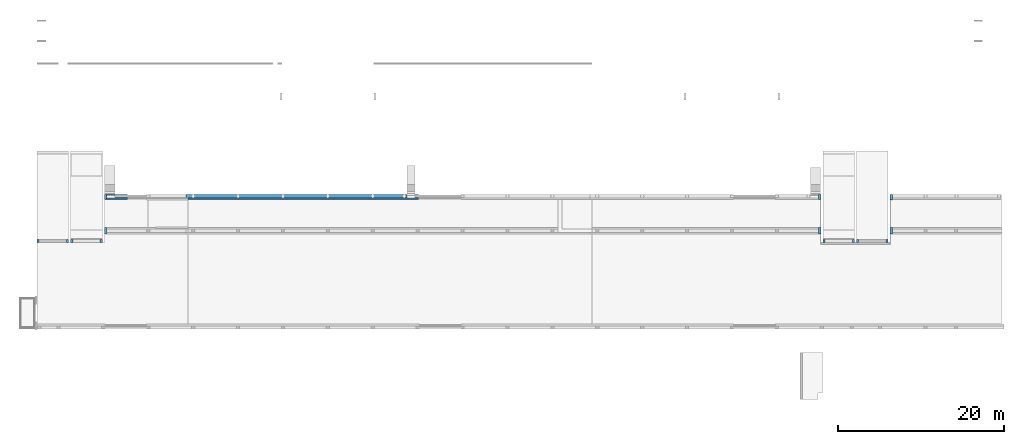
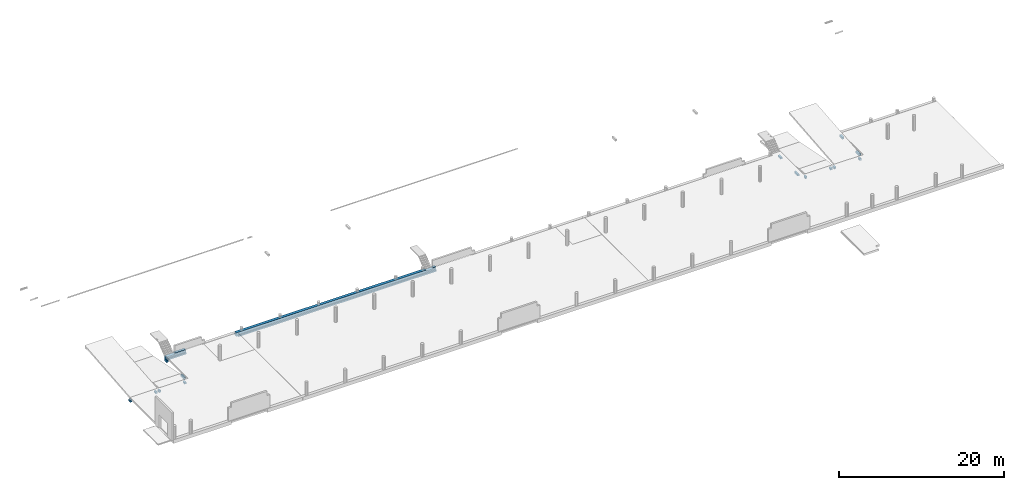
# One storey, part 5 of 6: 14 walls, 2 beams.
"""IFC2X3 building model written with IfcOpenShell, lengths in millimetres."""

from ifc_helpers import new_model, entity, si_unit, converted_unit, derived_unit, direction, frame, origin, place, context, subcontext, project, spatial, faceted_brep, material, type_object, element, save


model = new_model("IFC2X3")

# Units and contexts
model_context = context("Model", 3, precision=0.01, world=origin(), true_north=direction((6.12303176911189e-17, 1.0)))
body_context = subcontext(model_context, "Body", "Model", "MODEL_VIEW")
ifc_project = project(units=[si_unit("LENGTHUNIT", "METRE", prefix="MILLI"), si_unit("AREAUNIT", "SQUARE_METRE"), si_unit("VOLUMEUNIT", "CUBIC_METRE"), converted_unit("PLANEANGLEUNIT", "DEGREE", entity("IfcRatioMeasure", 0.0174532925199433), si_unit("PLANEANGLEUNIT", "RADIAN"), dimensions=[0, 0, 0, 0, 0, 0, 0]), si_unit("MASSUNIT", "GRAM", prefix="KILO"), derived_unit("MASSDENSITYUNIT", [(si_unit("MASSUNIT", "GRAM", prefix="KILO"), 1), (si_unit("LENGTHUNIT", "METRE"), -3)]), si_unit("TIMEUNIT", "SECOND"), si_unit("FREQUENCYUNIT", "HERTZ"), si_unit("THERMODYNAMICTEMPERATUREUNIT", "DEGREE_CELSIUS"), derived_unit("THERMALTRANSMITTANCEUNIT", [(si_unit("MASSUNIT", "GRAM", prefix="KILO"), 1), (si_unit("THERMODYNAMICTEMPERATUREUNIT", "KELVIN"), -1), (si_unit("TIMEUNIT", "SECOND"), -3)]), derived_unit("VOLUMETRICFLOWRATEUNIT", [(si_unit("LENGTHUNIT", "METRE"), 3), (si_unit("TIMEUNIT", "SECOND"), -1)]), si_unit("ELECTRICCURRENTUNIT", "AMPERE"), si_unit("ELECTRICVOLTAGEUNIT", "VOLT"), si_unit("POWERUNIT", "WATT"), si_unit("FORCEUNIT", "NEWTON", prefix="KILO"), si_unit("ILLUMINANCEUNIT", "LUX"), si_unit("LUMINOUSFLUXUNIT", "LUMEN"), si_unit("LUMINOUSINTENSITYUNIT", "CANDELA"), derived_unit("USERDEFINED", [(si_unit("MASSUNIT", "GRAM", prefix="KILO"), -1), (si_unit("LENGTHUNIT", "METRE"), -2), (si_unit("TIMEUNIT", "SECOND"), 3), (si_unit("LUMINOUSFLUXUNIT", "LUMEN"), 1)]), derived_unit("LINEARVELOCITYUNIT", [(si_unit("LENGTHUNIT", "METRE"), 1), (si_unit("TIMEUNIT", "SECOND"), -1)]), si_unit("PRESSUREUNIT", "PASCAL"), derived_unit("USERDEFINED", [(si_unit("LENGTHUNIT", "METRE"), -2), (si_unit("MASSUNIT", "GRAM", prefix="KILO"), 1), (si_unit("TIMEUNIT", "SECOND"), -2)])], contexts=[model_context])

# Site, building, storey
site_placement = place(None, origin())
site = spatial("IfcSite", under=ifc_project, at=site_placement, Name="Default", CompositionType="ELEMENT")
building_placement = place(site_placement, origin())
building = spatial("IfcBuilding", under=site, at=building_placement, Name="niet gebruiken", CompositionType="ELEMENT")
storey_placement = place(building_placement, frame((0.0, 0.0, 8370.0)))
storey = spatial("IfcBuildingStorey", under=building, at=storey_placement, Name="02a eerste tussenverdieping", CompositionType="ELEMENT", Elevation=8369.99999999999)

# Beams
ifc_material = material(Name="NLRS_f2_beton prefab")
beam_type = type_object("IfcBeamType", Name="NLRS_28.11_SF_WPB_prefabbeton balk enkele sponning_gen:600x540/200x200", PredefinedType="BEAM")
beam_1_placement = place(storey_placement, frame((26150.0, 24576.0, -530.0)))
element("IfcBeam", 1, at=beam_1_placement, inside=storey, type_object=beam_type, material=ifc_material, Name="NLRS_28.11_SF_WPB_prefabbeton balk enkele sponning_gen:600x540/200x200", ObjectType="NLRS_28.11_SF_WPB_prefabbeton balk enkele sponning_gen:600x540/200x200", context=body_context, shape_type="Brep", body=[
    faceted_brep([(0.0, 200.0, 540.0), (0.0, 600.0, 540.0), (0.0, 600.0, 0.0), (0.0, 200.0, 0.0), (0.0, 200.0, 460.0), (0.0, 200.0, 530.0), (27950.0, 200.0, 200.0), (27950.0, 0.0, 200.0), (27950.0, 0.0, 0.0), (27950.0, 600.0, 0.0), (27950.0, 600.0, 540.0), (27950.0, 200.0, 540.0), (27950.0, 200.0, 530.0), (27950.0, 275.0, 530.0), (27950.0, 275.0, 460.0), (27950.0, 200.0, 460.0), (26550.0, 200.0, 540.0), (26550.0, 600.0, 540.0), (27540.0, 200.0, 460.0), (27540.0, 200.0, 390.0), (26550.0, 200.0, 390.0), (26550.0, 200.0, 460.0), (26550.0, 200.0, 530.0), (220.0, 200.0, 0.0), (220.0, 200.0, 200.0), (220.0, 0.0, 200.0), (220.0, 0.0, 0.0), (26550.0, 600.0, 390.0), (27540.0, 600.0, 390.0), (27540.0, 600.0, 540.0), (27540.0, 275.0, 460.0), (27540.0, 200.0, 540.0), (27540.0, 275.0, 530.0), (27540.0, 200.0, 530.0)], [[[0, 1, 2, 3, 4, 5]], [[6, 7, 8, 9, 10, 11, 12, 13, 14, 15]], [[1, 0, 16, 17]], [[6, 15, 18, 19, 20, 21, 22, 16, 0, 5, 4, 3, 23, 24]], [[7, 6, 24, 25]], [[8, 7, 25, 26]], [[9, 8, 26, 23, 3, 2]], [[2, 1, 17, 27, 28, 29, 10, 9]], [[14, 30, 18, 15]], [[31, 29, 28, 19, 18, 30, 32, 33]], [[17, 16, 22, 21, 20, 27]], [[30, 14, 13, 32]], [[32, 13, 12, 33]], [[11, 10, 29, 31]], [[12, 11, 31, 33]], [[24, 23, 26, 25]], [[27, 20, 19, 28]]]),
])
beam_2_placement = place(storey_placement, frame((16345.0, 24576.0, -530.0)))
element("IfcBeam", 2, at=beam_2_placement, inside=storey, type_object=beam_type, material=ifc_material, Name="NLRS_28.11_SF_WPB_prefabbeton balk enkele sponning_gen:600x540/200x200", ObjectType="NLRS_28.11_SF_WPB_prefabbeton balk enkele sponning_gen:600x540/200x200", context=body_context, shape_type="Brep", body=[
    faceted_brep([(0.0, 0.0, 200.0), (0.0, 200.0, 200.0), (0.0, 200.0, 390.0), (0.0, 600.0, 390.0), (0.0, 600.0, 0.0), (0.0, 0.0, 0.0), (2755.0, 0.0, 0.0), (2755.0, 0.0, 200.0), (2755.0, 600.0, 540.0), (2755.0, 200.0, 540.0), (2755.0, 200.0, 530.0), (2755.0, 275.0, 530.0), (2755.0, 275.0, 460.0), (2755.0, 200.0, 460.0), (2755.0, 200.0, 200.0), (2755.0, 600.0, 0.0), (1250.0, 600.0, 540.0), (1250.0, 200.0, 540.0), (1250.0, 200.0, 530.0), (1250.0, 600.0, 390.0), (1250.0, 275.0, 460.0), (1250.0, 200.0, 460.0), (1250.0, 275.0, 530.0), (1250.0, 200.0, 390.0)], [[[0, 1, 2, 3, 4, 5]], [[0, 5, 6, 7]], [[8, 9, 10, 11, 12, 13, 14, 7, 6, 15]], [[9, 8, 16, 17]], [[9, 17, 18, 10]], [[1, 0, 7, 14]], [[5, 4, 15, 6]], [[8, 15, 4, 3, 19, 16]], [[12, 20, 21, 13]], [[20, 12, 11, 22]], [[22, 11, 10, 18]], [[1, 14, 13, 21, 23, 2]], [[17, 16, 19, 23, 21, 20, 22, 18]], [[23, 19, 3, 2]]]),
])

# Walls
wall_type_1 = type_object("IfcWallType", Name="NLRS_21.21_SF_WPB_oplegnok prefabbeton_gen:250x310", PredefinedType="NOTDEFINED", material=ifc_material)
wall_1_placement = place(storey_placement, frame((16325.0, 20446.0, -850.0), z_axis=(0.0, 0.0, 1.0), x_axis=(0.0, 1.0, 0.0)))
element("IfcWall", 3, at=wall_1_placement, inside=storey, type_object=wall_type_1, material=ifc_material, Name="NLRS_21.21_SF_WPB_oplegnok prefabbeton_gen:250x310", ObjectType="NLRS_21.21_SF_WPB_oplegnok prefabbeton_gen:250x310", context=body_context, shape_type="Brep", body=[
    faceted_brep([(0.0, 0.0, 310.0), (0.0, 0.0, 0.0), (0.0, -250.0, 39.9987607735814), (0.0, -250.0, 310.0), (800.0, 0.0, 310.0), (800.0, -250.0, 310.0), (800.0, -250.0, 39.9987607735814), (800.0, 0.0, 0.0)], [[[0, 1, 2, 3]], [[4, 5, 6, 7]], [[1, 0, 4, 7]], [[3, 2, 6, 5]], [[0, 3, 5, 4]], [[2, 1, 7, 6]]]),
])
wall_2_placement = place(storey_placement, frame((110825.0, 20446.0, -850.0), z_axis=(0.0, 0.0, 1.0), x_axis=(0.0, 1.0, 0.0)))
element("IfcWall", 4, at=wall_2_placement, inside=storey, type_object=wall_type_1, material=ifc_material, Name="NLRS_21.21_SF_WPB_oplegnok prefabbeton_gen:250x310", ObjectType="NLRS_21.21_SF_WPB_oplegnok prefabbeton_gen:250x310", context=body_context, shape_type="Brep", body=[
    faceted_brep([(0.0, 0.0, 310.0), (0.0, 0.0, 0.0), (0.0, -250.0, 39.9987607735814), (0.0, -250.0, 310.0), (800.0, 0.0, 310.0), (800.0, -250.0, 310.0), (800.0, -250.0, 39.9987607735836), (800.0, 0.0, 0.0)], [[[0, 1, 2, 3]], [[4, 5, 6, 7]], [[1, 0, 4, 7]], [[3, 2, 6, 5]], [[0, 3, 5, 4]], [[2, 1, 7, 6]]]),
])
wall_3_placement = place(storey_placement, frame((110825.0, 24508.5, -850.0), z_axis=(0.0, 0.0, 1.0), x_axis=(0.0, 1.0, 0.0)))
element("IfcWall", 5, at=wall_3_placement, inside=storey, type_object=wall_type_1, material=ifc_material, Name="NLRS_21.21_SF_WPB_oplegnok prefabbeton_gen:250x310", ObjectType="NLRS_21.21_SF_WPB_oplegnok prefabbeton_gen:250x310", context=body_context, shape_type="Brep", body=[
    faceted_brep([(0.0, 0.0, 310.0), (0.0, 0.0, 0.0), (0.0, -250.0, 39.9987607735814), (0.0, -250.0, 310.0), (667.499999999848, 0.0, 310.0), (667.499999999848, -250.0, 310.0), (667.499999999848, -250.0, 39.9987607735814), (667.499999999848, 0.0, 0.0)], [[[0, 1, 2, 3]], [[4, 5, 6, 7]], [[1, 0, 4, 7]], [[3, 2, 6, 5]], [[0, 3, 5, 4]], [[2, 1, 7, 6]]]),
])
wall_4_placement = place(storey_placement, frame((16325.0, 24576.0, -850.0), z_axis=(0.0, 0.0, 1.0), x_axis=(0.0, 1.0, 0.0)))
element("IfcWall", 6, at=wall_4_placement, inside=storey, type_object=wall_type_1, material=ifc_material, Name="NLRS_21.21_SF_WPB_oplegnok prefabbeton_gen:250x310", ObjectType="NLRS_21.21_SF_WPB_oplegnok prefabbeton_gen:250x310", context=body_context, shape_type="Brep", body=[
    faceted_brep([(0.0, 0.0, 310.0), (0.0, 0.0, 0.0), (0.0, -250.0, 39.9987607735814), (0.0, -250.0, 310.0), (600.0, 0.0, 310.0), (600.0, -250.0, 310.0), (600.0, -250.0, 39.9987607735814), (600.0, 0.0, 0.0)], [[[0, 1, 2, 3]], [[4, 5, 6, 7]], [[1, 0, 4, 7]], [[3, 2, 6, 5]], [[0, 3, 5, 4]], [[2, 1, 7, 6]]]),
])
wall_5_placement = place(storey_placement, frame((102225.0, 20446.0, -850.0), z_axis=(0.0, 0.0, 1.0), x_axis=(0.0, 1.0, 0.0)))
element("IfcWall", 7, at=wall_5_placement, inside=storey, type_object=wall_type_1, material=ifc_material, Name="NLRS_21.21_SF_WPB_oplegnok prefabbeton_gen:250x310", ObjectType="NLRS_21.21_SF_WPB_oplegnok prefabbeton_gen:250x310", context=body_context, shape_type="Brep", body=[
    faceted_brep([(0.0, -250.0, 310.0), (0.0, 0.0, 310.0), (0.0, 0.0, 39.9987607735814), (0.0, -250.0, 0.0), (800.0, -250.0, 310.0), (800.0, -250.0, 0.0), (800.0, 0.0, 39.9987607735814), (800.0, 0.0, 310.0)], [[[0, 1, 2, 3]], [[4, 5, 6, 7]], [[3, 5, 4, 0]], [[1, 7, 6, 2]], [[0, 4, 7, 1]], [[2, 6, 5, 3]]]),
])
wall_6_placement = place(storey_placement, frame((102225.0, 24576.0, -850.0), z_axis=(0.0, 0.0, 1.0), x_axis=(0.0, 1.0, 0.0)))
element("IfcWall", 8, at=wall_6_placement, inside=storey, type_object=wall_type_1, material=ifc_material, Name="NLRS_21.21_SF_WPB_oplegnok prefabbeton_gen:250x310", ObjectType="NLRS_21.21_SF_WPB_oplegnok prefabbeton_gen:250x310", context=body_context, shape_type="Brep", body=[
    faceted_brep([(0.0, -250.0, 310.0), (0.0, 0.0, 310.0), (0.0, 0.0, 39.9987607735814), (0.0, -250.0, 0.0), (600.0, -250.0, 310.0), (600.0, -250.0, 0.0), (600.0, 0.0, 39.9987607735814), (600.0, 0.0, 310.0)], [[[0, 1, 2, 3]], [[4, 5, 6, 7]], [[3, 5, 4, 0]], [[1, 7, 6, 2]], [[0, 4, 7, 1]], [[2, 6, 5, 3]]]),
])
wall_type_2 = type_object("IfcWallType", Name="NLRS_21.21_SF_WPB_oplegnok prefabbeton_gen:250x270 met afschuining 9gr", PredefinedType="NOTDEFINED", material=ifc_material)
wall_7_placement = place(storey_placement, frame((12275.0, 19426.0, -770.0), z_axis=(0.0, 0.0, 1.0), x_axis=(0.0, 1.0, 0.0)))
element("IfcWall", 9, at=wall_7_placement, inside=storey, type_object=wall_type_2, material=ifc_material, Name="NLRS_21.21_SF_WPB_oplegnok prefabbeton_gen:250x270 met afschuining 9gr", ObjectType="NLRS_21.21_SF_WPB_oplegnok prefabbeton_gen:250x270 met afschuining 9gr", context=body_context, shape_type="Brep", body=[
    faceted_brep([(0.0, 0.0, 310.0), (0.0, 0.0, 0.0), (0.0, -250.0, 39.5961100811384), (0.0, -250.0, 310.0), (380.0, 0.0, 310.0), (380.0, -250.0, 310.0), (380.0, -250.0, 39.5961100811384), (380.0, 0.0, 0.0)], [[[0, 1, 2, 3]], [[4, 5, 6, 7]], [[1, 0, 4, 7]], [[3, 2, 6, 5]], [[0, 3, 5, 4]], [[2, 1, 7, 6]]]),
])
wall_8_placement = place(storey_placement, frame((11775.0, 19426.0, -770.0), z_axis=(0.0, 0.0, 1.0), x_axis=(0.0, 1.0, 0.0)))
element("IfcWall", 10, at=wall_8_placement, inside=storey, type_object=wall_type_2, material=ifc_material, Name="NLRS_21.21_SF_WPB_oplegnok prefabbeton_gen:250x270 met afschuining 9gr", ObjectType="NLRS_21.21_SF_WPB_oplegnok prefabbeton_gen:250x270 met afschuining 9gr", context=body_context, shape_type="Brep", body=[
    faceted_brep([(0.0, -250.0, 310.0), (0.0, 0.0, 310.0), (0.0, 0.0, 39.5961100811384), (0.0, -250.0, 0.0), (380.0, -250.0, 310.0), (380.0, -250.0, 0.0), (380.0, 0.0, 39.5961100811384), (380.0, 0.0, 310.0)], [[[0, 1, 2, 3]], [[4, 5, 6, 7]], [[3, 5, 4, 0]], [[1, 7, 6, 2]], [[0, 4, 7, 1]], [[2, 6, 5, 3]]]),
])
wall_9_placement = place(storey_placement, frame((8225.0, 19426.0, -770.0), z_axis=(0.0, 0.0, 1.0), x_axis=(0.0, 1.0, 0.0)))
element("IfcWall", 11, at=wall_9_placement, inside=storey, type_object=wall_type_2, material=ifc_material, Name="NLRS_21.21_SF_WPB_oplegnok prefabbeton_gen:250x270 met afschuining 9gr", ObjectType="NLRS_21.21_SF_WPB_oplegnok prefabbeton_gen:250x270 met afschuining 9gr", context=body_context, shape_type="Brep", body=[
    faceted_brep([(0.0, 0.0, 310.0), (0.0, 0.0, 0.0), (0.0, -250.0, 39.5961100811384), (0.0, -250.0, 310.0), (380.0, 0.0, 310.0), (380.0, -250.0, 310.0), (380.0, -250.0, 39.5961100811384), (380.0, 0.0, 0.0)], [[[0, 1, 2, 3]], [[4, 5, 6, 7]], [[1, 0, 4, 7]], [[3, 2, 6, 5]], [[0, 3, 5, 4]], [[2, 1, 7, 6]]]),
])
wall_10_placement = place(storey_placement, frame((15825.0, 19426.0, -770.0), z_axis=(0.0, 0.0, 1.0), x_axis=(0.0, 1.0, 0.0)))
element("IfcWall", 12, at=wall_10_placement, inside=storey, type_object=wall_type_2, material=ifc_material, Name="NLRS_21.21_SF_WPB_oplegnok prefabbeton_gen:250x270 met afschuining 9gr", ObjectType="NLRS_21.21_SF_WPB_oplegnok prefabbeton_gen:250x270 met afschuining 9gr", context=body_context, shape_type="Brep", body=[
    faceted_brep([(0.0, -250.0, 310.0), (0.0, 0.0, 310.0), (0.0, 0.0, 39.5961100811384), (0.0, -250.0, 0.0), (380.0, -250.0, 310.0), (380.0, -250.0, 0.0), (380.0, 0.0, 39.5961100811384), (380.0, 0.0, 310.0)], [[[0, 1, 2, 3]], [[4, 5, 6, 7]], [[3, 5, 4, 0]], [[1, 7, 6, 2]], [[0, 4, 7, 1]], [[2, 6, 5, 3]]]),
])
wall_type_3 = type_object("IfcWallType", Name="NLRS_21.21_SF_WPB_oplegnok prefabbeton_gen:250x270 met afschuining -9gr", PredefinedType="NOTDEFINED", material=ifc_material)
wall_11_placement = place(storey_placement, frame((106275.0, 19426.0, -769.596110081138), z_axis=(0.0, 0.0, 1.0), x_axis=(0.0, 1.0, 0.0)))
element("IfcWall", 13, at=wall_11_placement, inside=storey, type_object=wall_type_3, material=ifc_material, Name="NLRS_21.21_SF_WPB_oplegnok prefabbeton_gen:250x270 met afschuining -9gr", ObjectType="NLRS_21.21_SF_WPB_oplegnok prefabbeton_gen:250x270 met afschuining -9gr", context=body_context, shape_type="Brep", body=[
    faceted_brep([(0.0, 0.0, 309.596110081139), (0.0, 0.0, 39.596110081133), (0.0, -250.0, 0.0), (0.0, -250.0, 309.596110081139), (380.0, 0.0, 309.596110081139), (380.0, -250.0, 309.596110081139), (380.0, -250.0, 0.0), (380.0, 0.0, 39.596110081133)], [[[0, 1, 2, 3]], [[4, 5, 6, 7]], [[1, 0, 4, 7]], [[3, 2, 6, 5]], [[0, 3, 5, 4]], [[2, 1, 7, 6]]]),
])
wall_12_placement = place(storey_placement, frame((106775.0, 19426.0, -769.596110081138), z_axis=(0.0, 0.0, 1.0), x_axis=(0.0, 1.0, 0.0)))
element("IfcWall", 14, at=wall_12_placement, inside=storey, type_object=wall_type_3, material=ifc_material, Name="NLRS_21.21_SF_WPB_oplegnok prefabbeton_gen:250x270 met afschuining -9gr", ObjectType="NLRS_21.21_SF_WPB_oplegnok prefabbeton_gen:250x270 met afschuining -9gr", context=body_context, shape_type="Brep", body=[
    faceted_brep([(0.0, -250.0, 309.596110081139), (0.0, 0.0, 309.596110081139), (0.0, 0.0, 0.0), (0.0, -250.0, 39.596110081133), (380.0, -250.0, 309.596110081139), (380.0, -250.0, 39.596110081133), (380.0, 0.0, 0.0), (380.0, 0.0, 309.596110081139)], [[[0, 1, 2, 3]], [[4, 5, 6, 7]], [[3, 5, 4, 0]], [[1, 7, 6, 2]], [[0, 4, 7, 1]], [[2, 6, 5, 3]]]),
])
wall_13_placement = place(storey_placement, frame((110325.0, 19426.0, -769.596110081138), z_axis=(0.0, 0.0, 1.0), x_axis=(0.0, 1.0, 0.0)))
element("IfcWall", 15, at=wall_13_placement, inside=storey, type_object=wall_type_3, material=ifc_material, Name="NLRS_21.21_SF_WPB_oplegnok prefabbeton_gen:250x270 met afschuining -9gr", ObjectType="NLRS_21.21_SF_WPB_oplegnok prefabbeton_gen:250x270 met afschuining -9gr", context=body_context, shape_type="Brep", body=[
    faceted_brep([(0.0, 0.0, 309.596110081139), (0.0, 0.0, 39.596110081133), (0.0, -250.0, 0.0), (0.0, -250.0, 309.596110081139), (380.0, 0.0, 309.596110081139), (380.0, -250.0, 309.596110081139), (380.0, -250.0, 0.0), (380.0, 0.0, 39.596110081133)], [[[0, 1, 2, 3]], [[4, 5, 6, 7]], [[1, 0, 4, 7]], [[3, 2, 6, 5]], [[0, 3, 5, 4]], [[2, 1, 7, 6]]]),
])
wall_14_placement = place(storey_placement, frame((102725.0, 19426.0, -769.596110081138), z_axis=(0.0, 0.0, 1.0), x_axis=(0.0, 1.0, 0.0)))
element("IfcWall", 16, at=wall_14_placement, inside=storey, type_object=wall_type_3, material=ifc_material, Name="NLRS_21.21_SF_WPB_oplegnok prefabbeton_gen:250x270 met afschuining -9gr", ObjectType="NLRS_21.21_SF_WPB_oplegnok prefabbeton_gen:250x270 met afschuining -9gr", context=body_context, shape_type="Brep", body=[
    faceted_brep([(0.0, -250.0, 309.596110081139), (0.0, 0.0, 309.596110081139), (0.0, 0.0, 0.0), (0.0, -250.0, 39.596110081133), (380.0, -250.0, 309.596110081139), (380.0, -250.0, 39.596110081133), (380.0, 0.0, 0.0), (380.0, 0.0, 309.596110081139)], [[[0, 1, 2, 3]], [[4, 5, 6, 7]], [[3, 5, 4, 0]], [[1, 7, 6, 2]], [[0, 4, 7, 1]], [[2, 6, 5, 3]]]),
])

save(model, "model.ifc")
